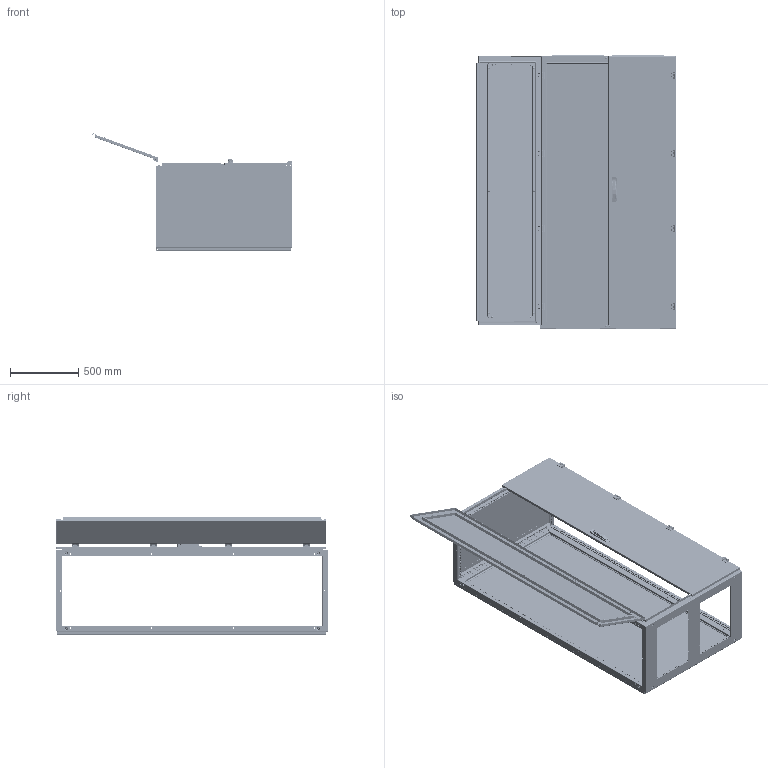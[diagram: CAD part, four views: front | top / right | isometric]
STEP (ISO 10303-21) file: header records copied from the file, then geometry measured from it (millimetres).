
FILE_DESCRIPTION (( 'STEP AP214' ), '1' );
FILE_NAME ('QA201006.step', '2011-08-11T09:09:17', ( 'Radek Veselý' ), ( 'Siemens and Partners' ), 'SwSTEP 2.0', 'SolidWorks 2006303', '' );
FILE_SCHEMA (( 'AUTOMOTIVE_DESIGN' ));
Length unit declared in the file: millimetre
Products named in the file (1): QA201006
Bounding box: 1468.78 x 2004.5 x 862.57 mm (x, y, z)
Volume: 14422319.4 mm3; surface area: 16635140.4 mm2
Topology: 158 solids, 158 shells, 9095 faces, 25153 edges, 16353 vertices
Faces by surface type: plane 4524, cylinder 3772, cone 474, bspline 269, torus 56
Entity records: 379290 total; most frequent: CARTESIAN_POINT 67671, DIRECTION 50018, ORIENTED_EDGE 49650, EDGE_CURVE 24825, AXIS2_PLACEMENT_3D 16996, VERTEX_POINT 16353, LINE 16026, VECTOR 16026
